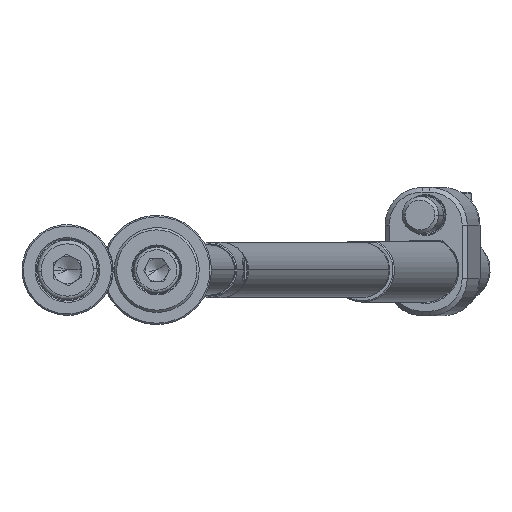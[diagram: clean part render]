
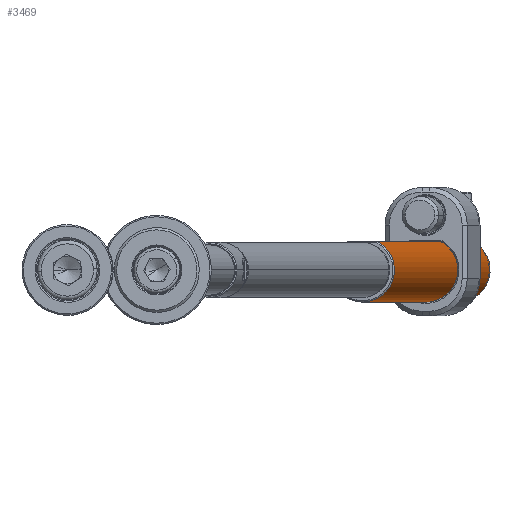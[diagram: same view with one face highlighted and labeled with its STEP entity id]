
A CAD part, front view. The second image highlights one B-rep face of the part: STEP entity #3469.
In plain terms, the highlighted cylindrical face has radius 7 mm (diameter 14 mm), a partial arc.
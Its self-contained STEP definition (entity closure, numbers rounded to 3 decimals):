
#71 = VERTEX_POINT ( 'NONE', #4160 ) ;
#76 = CARTESIAN_POINT ( 'NONE',  ( 6.1, -3.434, 7.948 ) ) ;
#207 = EDGE_CURVE ( 'NONE', #4701, #4779, #2698, .T. ) ;
#378 = DIRECTION ( 'NONE',  ( 0., 0., -1. ) ) ;
#417 = B_SPLINE_CURVE_WITH_KNOTS ( 'NONE', 3,
 ( #5175, #3013, #8574, #9604 ),
 .UNSPECIFIED., .F., .F.,
 ( 4, 4 ),
 ( 0., 0. ),
 .UNSPECIFIED. ) ;
#543 = DIRECTION ( 'NONE',  ( 0., 0., 1. ) ) ;
#862 = VERTEX_POINT ( 'NONE', #10681 ) ;
#1080 = VECTOR ( 'NONE', #11166, 1000. ) ;
#1085 = VECTOR ( 'NONE', #3859, 1000. ) ;
#1104 = CARTESIAN_POINT ( 'NONE',  ( 5.876, -3.804, 11.25 ) ) ;
#1384 = CARTESIAN_POINT ( 'NONE',  ( 6.049, -3.524, 8.099 ) ) ;
#1462 = CARTESIAN_POINT ( 'NONE',  ( 5.915, -3.744, 8.582 ) ) ;
#1723 = CARTESIAN_POINT ( 'NONE',  ( 6.2, -3.25, 200. ) ) ;
#1821 = CARTESIAN_POINT ( 'NONE',  ( 0., 0., 199.7 ) ) ;
#1856 = LINE ( 'NONE', #1723, #2181 ) ;
#1897 = CARTESIAN_POINT ( 'NONE',  ( 6.131, -3.379, 7.796 ) ) ;
#2181 = VECTOR ( 'NONE', #8331, 1000. ) ;
#2350 = CARTESIAN_POINT ( 'NONE',  ( 6.1, -3.434, 12.052 ) ) ;
#2572 = EDGE_CURVE ( 'NONE', #9111, #11008, #4621, .T. ) ;
#2698 = LINE ( 'NONE', #10460, #1085 ) ;
#2726 = CARTESIAN_POINT ( 'NONE',  ( 5.78, -3.95, 9.275 ) ) ;
#2774 = ORIENTED_EDGE ( 'NONE', *, *, #2572, .T. ) ;
#2782 = VERTEX_POINT ( 'NONE', #76 ) ;
#2829 = ORIENTED_EDGE ( 'NONE', *, *, #9428, .T. ) ;
#3013 = CARTESIAN_POINT ( 'NONE',  ( 6.131, -3.379, 12.204 ) ) ;
#3236 = CARTESIAN_POINT ( 'NONE',  ( 6.049, -3.524, 11.901 ) ) ;
#3378 = AXIS2_PLACEMENT_3D ( 'NONE', #9350, #543, #11466 ) ;
#3379 = CARTESIAN_POINT ( 'NONE',  ( 5.915, -3.744, 11.42 ) ) ;
#3469 = ADVANCED_FACE ( 'NONE', ( #11228 ), #13404, .T. ) ;
#3586 = EDGE_CURVE ( 'NONE', #4701, #9111, #3879, .T. ) ;
#3725 = ORIENTED_EDGE ( 'NONE', *, *, #207, .F. ) ;
#3772 = CARTESIAN_POINT ( 'NONE',  ( -7., 0., 0.3 ) ) ;
#3815 = CARTESIAN_POINT ( 'NONE',  ( 6.001, -3.604, 8.256 ) ) ;
#3859 = DIRECTION ( 'NONE',  ( 0., 0., -1. ) ) ;
#3879 = CIRCLE ( 'NONE', #11079, 7. ) ;
#3946 = DIRECTION ( 'NONE',  ( 0., 0., -1. ) ) ;
#4160 = CARTESIAN_POINT ( 'NONE',  ( 6.2, -3.25, 7.5 ) ) ;
#4621 = LINE ( 'NONE', #12479, #1080 ) ;
#4701 = VERTEX_POINT ( 'NONE', #12120 ) ;
#4779 = VERTEX_POINT ( 'NONE', #10771 ) ;
#5175 = CARTESIAN_POINT ( 'NONE',  ( 6.1, -3.434, 12.052 ) ) ;
#6351 = CARTESIAN_POINT ( 'NONE',  ( 6.1, -3.434, 7.948 ) ) ;
#6421 = B_SPLINE_CURVE_WITH_KNOTS ( 'NONE', 3,
 ( #8742, #3236, #12119, #3379, #1104, #9982, #11010, #11596, #2726, #8012, #1462, #3815, #1384, #11520 ),
 .UNSPECIFIED., .F., .F.,
 ( 4, 2, 2, 2, 2, 2, 4 ),
 ( 0., 0.001, 0.001, 0.003, 0.004, 0.004, 0.005 ),
 .UNSPECIFIED. ) ;
#7139 = EDGE_CURVE ( 'NONE', #71, #862, #1856, .T. ) ;
#7278 = CARTESIAN_POINT ( 'NONE',  ( 6.2, -3.25, 7.5 ) ) ;
#7353 = EDGE_LOOP ( 'NONE', ( #12976, #2774, #9479, #9600, #12860, #8494, #2829, #3725 ) ) ;
#7421 = CARTESIAN_POINT ( 'NONE',  ( 6.164, -3.317, 7.646 ) ) ;
#7484 = CARTESIAN_POINT ( 'NONE',  ( -7., 0., 199.7 ) ) ;
#8012 = CARTESIAN_POINT ( 'NONE',  ( 5.876, -3.805, 8.752 ) ) ;
#8331 = DIRECTION ( 'NONE',  ( 0., 0., -1. ) ) ;
#8494 = ORIENTED_EDGE ( 'NONE', *, *, #13316, .F. ) ;
#8574 = CARTESIAN_POINT ( 'NONE',  ( 6.164, -3.317, 12.354 ) ) ;
#8742 = CARTESIAN_POINT ( 'NONE',  ( 6.1, -3.434, 12.052 ) ) ;
#8945 = VERTEX_POINT ( 'NONE', #2350 ) ;
#9103 = CARTESIAN_POINT ( 'NONE',  ( 0., 0., 200. ) ) ;
#9111 = VERTEX_POINT ( 'NONE', #7484 ) ;
#9219 = AXIS2_PLACEMENT_3D ( 'NONE', #9103, #378, #13542 ) ;
#9350 = CARTESIAN_POINT ( 'NONE',  ( 0., 0., 0.3 ) ) ;
#9428 = EDGE_CURVE ( 'NONE', #8945, #4779, #417, .T. ) ;
#9479 = ORIENTED_EDGE ( 'NONE', *, *, #14009, .T. ) ;
#9600 = ORIENTED_EDGE ( 'NONE', *, *, #7139, .F. ) ;
#9604 = CARTESIAN_POINT ( 'NONE',  ( 6.2, -3.25, 12.5 ) ) ;
#9982 = CARTESIAN_POINT ( 'NONE',  ( 5.781, -3.95, 10.729 ) ) ;
#10077 = EDGE_CURVE ( 'NONE', #71, #2782, #11353, .T. ) ;
#10460 = CARTESIAN_POINT ( 'NONE',  ( 6.2, -3.25, 200. ) ) ;
#10681 = CARTESIAN_POINT ( 'NONE',  ( 6.2, -3.25, 0.3 ) ) ;
#10771 = CARTESIAN_POINT ( 'NONE',  ( 6.2, -3.25, 12.5 ) ) ;
#11008 = VERTEX_POINT ( 'NONE', #3772 ) ;
#11010 = CARTESIAN_POINT ( 'NONE',  ( 5.745, -4., 10.372 ) ) ;
#11079 = AXIS2_PLACEMENT_3D ( 'NONE', #1821, #3946, #14055 ) ;
#11166 = DIRECTION ( 'NONE',  ( 0., 0., -1. ) ) ;
#11228 = FACE_OUTER_BOUND ( 'NONE', #7353, .T. ) ;
#11353 = B_SPLINE_CURVE_WITH_KNOTS ( 'NONE', 3,
 ( #7278, #7421, #1897, #6351 ),
 .UNSPECIFIED., .F., .F.,
 ( 4, 4 ),
 ( 0., 0. ),
 .UNSPECIFIED. ) ;
#11466 = DIRECTION ( 'NONE',  ( 1., 0., 0. ) ) ;
#11520 = CARTESIAN_POINT ( 'NONE',  ( 6.1, -3.434, 7.948 ) ) ;
#11596 = CARTESIAN_POINT ( 'NONE',  ( 5.744, -4., 9.635 ) ) ;
#11746 = CIRCLE ( 'NONE', #3378, 7. ) ;
#12119 = CARTESIAN_POINT ( 'NONE',  ( 6.002, -3.604, 11.745 ) ) ;
#12120 = CARTESIAN_POINT ( 'NONE',  ( 6.2, -3.25, 199.7 ) ) ;
#12479 = CARTESIAN_POINT ( 'NONE',  ( -7., 0., 200. ) ) ;
#12860 = ORIENTED_EDGE ( 'NONE', *, *, #10077, .T. ) ;
#12976 = ORIENTED_EDGE ( 'NONE', *, *, #3586, .T. ) ;
#13316 = EDGE_CURVE ( 'NONE', #8945, #2782, #6421, .T. ) ;
#13404 = CYLINDRICAL_SURFACE ( 'NONE', #9219, 7. ) ;
#13542 = DIRECTION ( 'NONE',  ( -1., 0., 0. ) ) ;
#14009 = EDGE_CURVE ( 'NONE', #11008, #862, #11746, .T. ) ;
#14055 = DIRECTION ( 'NONE',  ( 1., 0., 0. ) ) ;
